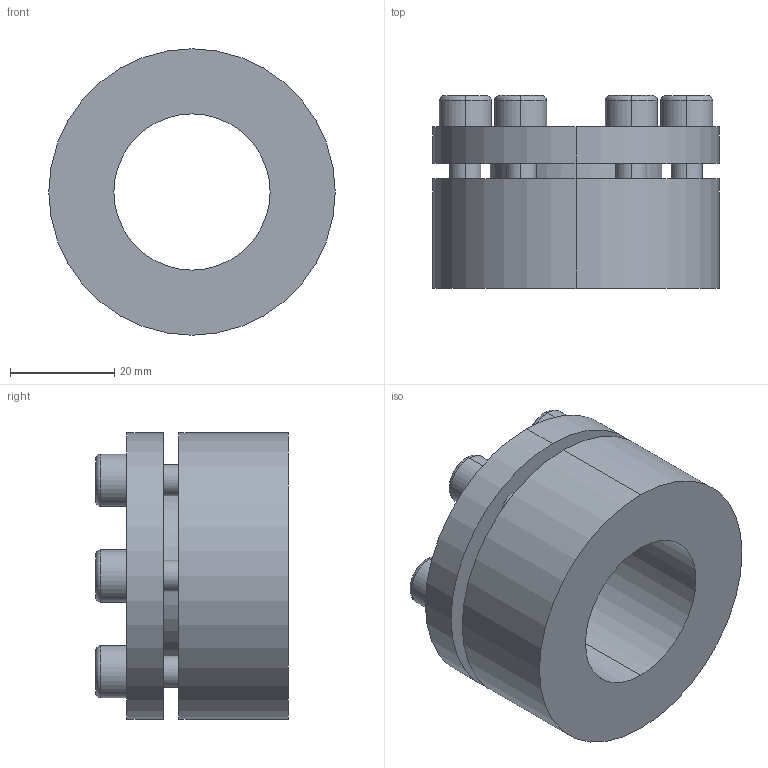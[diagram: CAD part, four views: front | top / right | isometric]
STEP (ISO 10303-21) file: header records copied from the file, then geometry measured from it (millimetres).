
FILE_DESCRIPTION (( 'STEP AP203' ), '1' );
FILE_NAME ('PL-H1 30-55.STEP', '2021-10-23T00:53:35', ( '' ), ( '' ), 'SwSTEP 2.0', 'SolidWorks 2018', '' );
FILE_SCHEMA (( 'CONFIG_CONTROL_DESIGN' ));
Length unit declared in the file: millimetre
Products named in the file (1): PL-H1 30-55
Bounding box: 55 x 37 x 55 mm (x, y, z)
Volume: 50084.5 mm3; surface area: 15808.9 mm2
Topology: 1 solids, 1 shells, 96 faces, 228 edges, 148 vertices
Faces by surface type: plane 52, cylinder 32, torus 12
Entity records: 2889 total; most frequent: DIRECTION 510, CARTESIAN_POINT 473, ORIENTED_EDGE 456, EDGE_CURVE 228, AXIS2_PLACEMENT_3D 185, VERTEX_POINT 148, VECTOR 140, LINE 140
